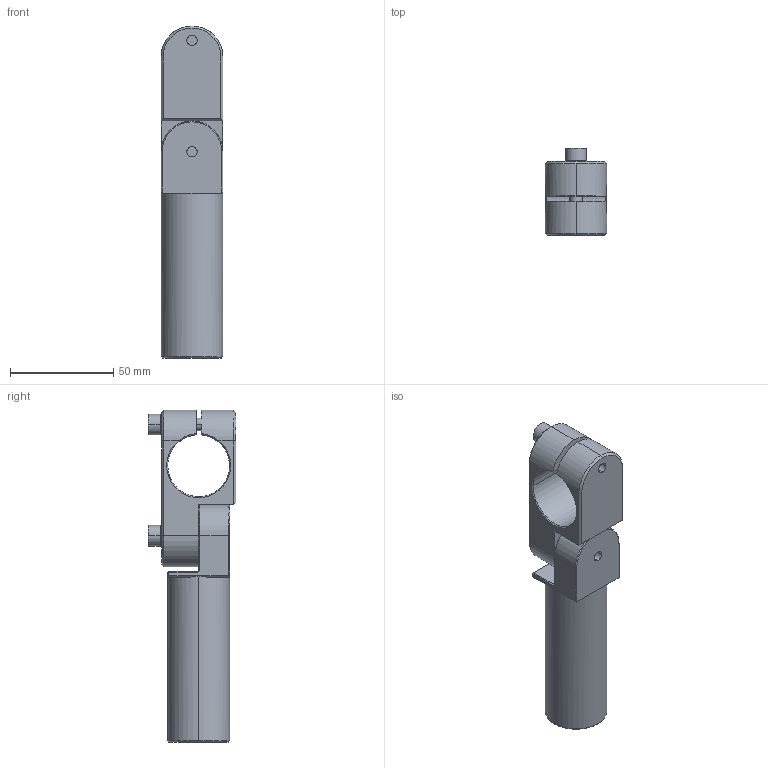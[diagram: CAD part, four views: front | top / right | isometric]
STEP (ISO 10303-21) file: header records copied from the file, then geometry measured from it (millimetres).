
FILE_DESCRIPTION (( 'STEP AP214' ), '1' );
FILE_NAME ('SEA-3030L80T.STEP', '2023-02-03T02:32:57', ( 'Windows User' ), ( 'P R C' ), 'SwSTEP 2.0', 'SolidWorks 2019', '' );
FILE_SCHEMA (( 'AUTOMOTIVE_DESIGN' ));
Length unit declared in the file: millimetre
Products named in the file (5): PTC-M6L20; SEA-3030L80.1; SEA-3030L80.2; PTS-M6; SEA-3030L80T
Assembly tree (6 placements, depth 2):
  SEA-3030L80T
    SEA-3030L80.1
    SEA-3030L80.2
    PTC-M6L20  x2
    PTS-M6  x2
Bounding box: 30 x 42.45 x 161 mm (x, y, z)
Volume: 86108.6 mm3; surface area: 30861.9 mm2
Topology: 6 solids, 6 shells, 459 faces, 1275 edges, 829 vertices
Faces by surface type: plane 387, cylinder 37, cone 31, bspline 4
Entity records: 9455 total; most frequent: CARTESIAN_POINT 2126, DIRECTION 1529, ORIENTED_EDGE 1482, EDGE_CURVE 741, AXIS2_PLACEMENT_3D 526, VECTOR 477, LINE 477, VERTEX_POINT 475
